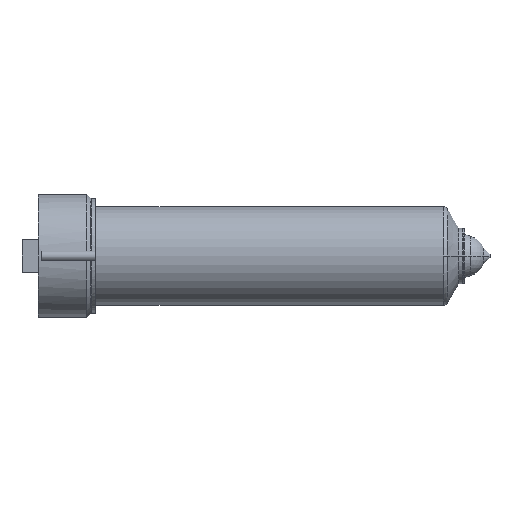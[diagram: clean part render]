
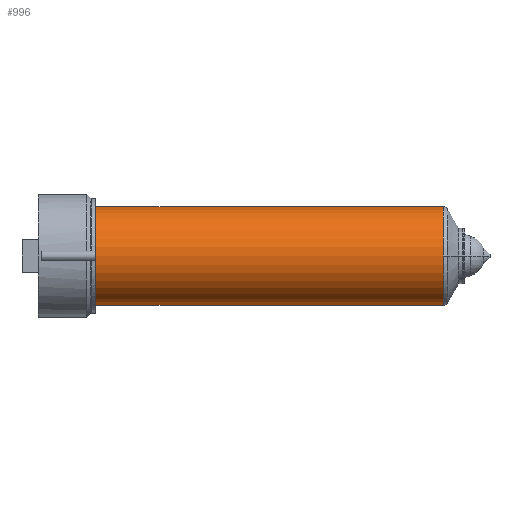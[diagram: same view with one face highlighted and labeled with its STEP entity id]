
A CAD part, front view. The second image highlights one B-rep face of the part: STEP entity #996.
In plain terms, the highlighted cylindrical face has radius 30 mm (diameter 60 mm), a partial arc.
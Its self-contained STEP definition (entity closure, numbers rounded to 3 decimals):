
#923 = CARTESIAN_POINT ( 'NONE',  ( 0., 0., 30. ) ) ;
#996 = ADVANCED_FACE ( 'NONE', ( #5546 ), #2813, .T. ) ;
#1048 = CARTESIAN_POINT ( 'NONE',  ( 35., 0., 30. ) ) ;
#1182 = DIRECTION ( 'NONE',  ( -1., 0., 0. ) ) ;
#1208 = DIRECTION ( 'NONE',  ( 0., 0., 1. ) ) ;
#1300 = CARTESIAN_POINT ( 'NONE',  ( 0., 0., -30. ) ) ;
#1366 = EDGE_LOOP ( 'NONE', ( #3346, #3203, #3129, #2912, #2842 ) ) ;
#1379 = CARTESIAN_POINT ( 'NONE',  ( 35., 0., 0. ) ) ;
#1633 = AXIS2_PLACEMENT_3D ( 'NONE', #1379, #1182, #1208 ) ;
#1803 = EDGE_CURVE ( 'NONE', #5612, #6280, #5705, .T. ) ;
#1883 = AXIS2_PLACEMENT_3D ( 'NONE', #3998, #3973, #3914 ) ;
#1889 = DIRECTION ( 'NONE',  ( 0., 0., 1. ) ) ;
#1892 = DIRECTION ( 'NONE',  ( -1., 0., 0. ) ) ;
#1898 = EDGE_CURVE ( 'NONE', #5224, #6691, #3918, .T. ) ;
#1901 = CARTESIAN_POINT ( 'NONE',  ( 0., 0., 0. ) ) ;
#1974 = DIRECTION ( 'NONE',  ( -1., 0., 0. ) ) ;
#2013 = EDGE_CURVE ( 'NONE', #6691, #4494, #6401, .T. ) ;
#2475 = VECTOR ( 'NONE', #6493, 1000. ) ;
#2813 = CYLINDRICAL_SURFACE ( 'NONE', #6471, 30. ) ;
#2842 = ORIENTED_EDGE ( 'NONE', *, *, #1803, .F. ) ;
#2912 = ORIENTED_EDGE ( 'NONE', *, *, #4827, .T. ) ;
#3129 = ORIENTED_EDGE ( 'NONE', *, *, #2013, .T. ) ;
#3203 = ORIENTED_EDGE ( 'NONE', *, *, #1898, .T. ) ;
#3346 = ORIENTED_EDGE ( 'NONE', *, *, #6529, .F. ) ;
#3517 = CARTESIAN_POINT ( 'NONE',  ( 246.662, -30., 0. ) ) ;
#3755 = LINE ( 'NONE', #923, #2475 ) ;
#3914 = DIRECTION ( 'NONE',  ( 0., -1., 0. ) ) ;
#3918 = CIRCLE ( 'NONE', #5283, 30. ) ;
#3973 = DIRECTION ( 'NONE',  ( -1., 0., 0. ) ) ;
#3998 = CARTESIAN_POINT ( 'NONE',  ( 246.662, 0., 0. ) ) ;
#4334 = CARTESIAN_POINT ( 'NONE',  ( 246.662, 0., -30. ) ) ;
#4494 = VERTEX_POINT ( 'NONE', #5242 ) ;
#4827 = EDGE_CURVE ( 'NONE', #4494, #6280, #3755, .T. ) ;
#5100 = VECTOR ( 'NONE', #1892, 1000. ) ;
#5224 = VERTEX_POINT ( 'NONE', #4334 ) ;
#5242 = CARTESIAN_POINT ( 'NONE',  ( 246.662, 0., 30. ) ) ;
#5283 = AXIS2_PLACEMENT_3D ( 'NONE', #5511, #5498, #5494 ) ;
#5412 = LINE ( 'NONE', #1300, #5100 ) ;
#5494 = DIRECTION ( 'NONE',  ( 0., -1., 0. ) ) ;
#5498 = DIRECTION ( 'NONE',  ( -1., 0., 0. ) ) ;
#5511 = CARTESIAN_POINT ( 'NONE',  ( 246.662, 0., 0. ) ) ;
#5546 = FACE_OUTER_BOUND ( 'NONE', #1366, .T. ) ;
#5580 = CARTESIAN_POINT ( 'NONE',  ( 35., 0., -30. ) ) ;
#5612 = VERTEX_POINT ( 'NONE', #5580 ) ;
#5705 = CIRCLE ( 'NONE', #1633, 30. ) ;
#6280 = VERTEX_POINT ( 'NONE', #1048 ) ;
#6401 = CIRCLE ( 'NONE', #1883, 30. ) ;
#6471 = AXIS2_PLACEMENT_3D ( 'NONE', #1901, #1974, #1889 ) ;
#6493 = DIRECTION ( 'NONE',  ( -1., 0., 0. ) ) ;
#6529 = EDGE_CURVE ( 'NONE', #5224, #5612, #5412, .T. ) ;
#6691 = VERTEX_POINT ( 'NONE', #3517 ) ;
